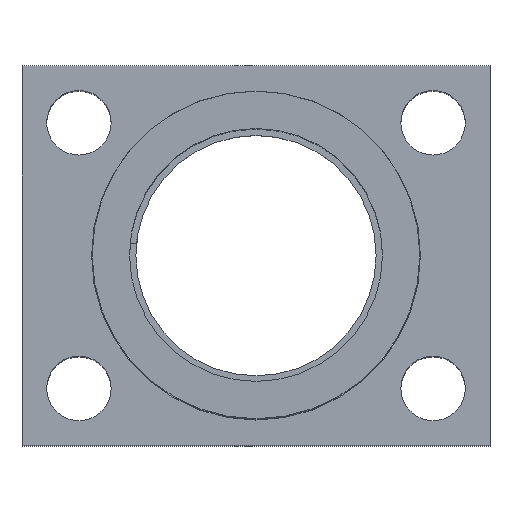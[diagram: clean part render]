
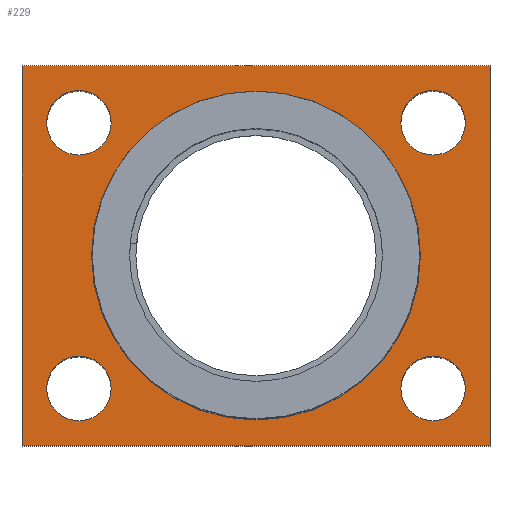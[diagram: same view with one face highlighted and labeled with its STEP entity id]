
A CAD part, top view. The second image highlights one B-rep face of the part: STEP entity #229.
In plain terms, the highlighted planar face has unit normal (0, 0, 1).
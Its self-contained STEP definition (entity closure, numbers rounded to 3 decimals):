
#42 = EDGE_CURVE ( 'NONE', #1217, #649, #1071, .T. ) ;
#44 = VERTEX_POINT ( 'NONE', #673 ) ;
#60 = DIRECTION ( 'NONE',  ( 0., 0., 1. ) ) ;
#74 = CARTESIAN_POINT ( 'NONE',  ( -28., 21., 8. ) ) ;
#83 = VECTOR ( 'NONE', #1203, 1000. ) ;
#113 = CARTESIAN_POINT ( 'NONE',  ( 28., 21., 8. ) ) ;
#117 = DIRECTION ( 'NONE',  ( 0., 1., 0. ) ) ;
#123 = DIRECTION ( 'NONE',  ( 1., 0., 0. ) ) ;
#137 = FACE_BOUND ( 'NONE', #375, .T. ) ;
#142 = CARTESIAN_POINT ( 'NONE',  ( -26., 0., 8. ) ) ;
#156 = CIRCLE ( 'NONE', #1041, 5.1 ) ;
#165 = CARTESIAN_POINT ( 'NONE',  ( -28., -21., 8. ) ) ;
#168 = ORIENTED_EDGE ( 'NONE', *, *, #245, .F. ) ;
#172 = VERTEX_POINT ( 'NONE', #142 ) ;
#177 = CARTESIAN_POINT ( 'NONE',  ( 0., 0., 8. ) ) ;
#181 = AXIS2_PLACEMENT_3D ( 'NONE', #325, #205, #813 ) ;
#198 = DIRECTION ( 'NONE',  ( 0., 0., 1. ) ) ;
#205 = DIRECTION ( 'NONE',  ( 0., 0., 1. ) ) ;
#206 = DIRECTION ( 'NONE',  ( 1., 0., 0. ) ) ;
#228 = DIRECTION ( 'NONE',  ( 0., 0., 1. ) ) ;
#229 = ADVANCED_FACE ( 'NONE', ( #963, #724, #1326, #137, #612, #460 ), #344, .T. ) ;
#241 = ORIENTED_EDGE ( 'NONE', *, *, #416, .F. ) ;
#245 = EDGE_CURVE ( 'NONE', #1156, #617, #1115, .T. ) ;
#293 = ORIENTED_EDGE ( 'NONE', *, *, #588, .F. ) ;
#307 = LINE ( 'NONE', #505, #835 ) ;
#323 = CARTESIAN_POINT ( 'NONE',  ( -33.1, -21., 8. ) ) ;
#325 = CARTESIAN_POINT ( 'NONE',  ( 28., 21., 8. ) ) ;
#344 = PLANE ( 'NONE',  #1040 ) ;
#371 = ORIENTED_EDGE ( 'NONE', *, *, #467, .T. ) ;
#375 = EDGE_LOOP ( 'NONE', ( #1395, #1535 ) ) ;
#407 = DIRECTION ( 'NONE',  ( 1., 0., 0. ) ) ;
#416 = EDGE_CURVE ( 'NONE', #855, #172, #1492, .T. ) ;
#426 = AXIS2_PLACEMENT_3D ( 'NONE', #177, #60, #1512 ) ;
#443 = DIRECTION ( 'NONE',  ( 1., 0., 0. ) ) ;
#460 = FACE_OUTER_BOUND ( 'NONE', #563, .T. ) ;
#463 = DIRECTION ( 'NONE',  ( 1., 0., 0. ) ) ;
#467 = EDGE_CURVE ( 'NONE', #1173, #1246, #307, .T. ) ;
#471 = CARTESIAN_POINT ( 'NONE',  ( 0., 0., 8. ) ) ;
#505 = CARTESIAN_POINT ( 'NONE',  ( 37., 30., 8. ) ) ;
#541 = EDGE_CURVE ( 'NONE', #44, #1080, #1259, .T. ) ;
#550 = CARTESIAN_POINT ( 'NONE',  ( 28., -21., 8. ) ) ;
#551 = CIRCLE ( 'NONE', #1167, 5.1 ) ;
#563 = EDGE_LOOP ( 'NONE', ( #371, #581, #1138, #738 ) ) ;
#567 = AXIS2_PLACEMENT_3D ( 'NONE', #74, #1404, #407 ) ;
#581 = ORIENTED_EDGE ( 'NONE', *, *, #915, .T. ) ;
#588 = EDGE_CURVE ( 'NONE', #1331, #929, #1268, .T. ) ;
#594 = DIRECTION ( 'NONE',  ( 0., 0., 1. ) ) ;
#612 = FACE_BOUND ( 'NONE', #1097, .T. ) ;
#617 = VERTEX_POINT ( 'NONE', #323 ) ;
#627 = AXIS2_PLACEMENT_3D ( 'NONE', #471, #1191, #123 ) ;
#649 = VERTEX_POINT ( 'NONE', #1174 ) ;
#654 = CARTESIAN_POINT ( 'NONE',  ( -37., 30., 8. ) ) ;
#668 = CARTESIAN_POINT ( 'NONE',  ( 37., 30., 8. ) ) ;
#673 = CARTESIAN_POINT ( 'NONE',  ( -37., -30., 8. ) ) ;
#683 = LINE ( 'NONE', #1175, #781 ) ;
#685 = EDGE_CURVE ( 'NONE', #812, #1462, #1447, .T. ) ;
#704 = DIRECTION ( 'NONE',  ( 1., 0., 0. ) ) ;
#708 = DIRECTION ( 'NONE',  ( 1., 0., 0. ) ) ;
#724 = FACE_BOUND ( 'NONE', #1431, .T. ) ;
#738 = ORIENTED_EDGE ( 'NONE', *, *, #1366, .T. ) ;
#752 = ORIENTED_EDGE ( 'NONE', *, *, #42, .F. ) ;
#763 = EDGE_LOOP ( 'NONE', ( #1473, #752 ) ) ;
#781 = VECTOR ( 'NONE', #117, 1000. ) ;
#808 = DIRECTION ( 'NONE',  ( 1., 0., 0. ) ) ;
#809 = EDGE_CURVE ( 'NONE', #617, #1156, #1193, .T. ) ;
#812 = VERTEX_POINT ( 'NONE', #1304 ) ;
#813 = DIRECTION ( 'NONE',  ( 1., 0., 0. ) ) ;
#828 = CARTESIAN_POINT ( 'NONE',  ( 0., 0., 8. ) ) ;
#835 = VECTOR ( 'NONE', #994, 1000. ) ;
#847 = EDGE_CURVE ( 'NONE', #172, #855, #1496, .T. ) ;
#855 = VERTEX_POINT ( 'NONE', #952 ) ;
#858 = VECTOR ( 'NONE', #808, 1000. ) ;
#865 = ORIENTED_EDGE ( 'NONE', *, *, #847, .F. ) ;
#867 = EDGE_CURVE ( 'NONE', #1462, #812, #156, .T. ) ;
#888 = EDGE_CURVE ( 'NONE', #929, #1331, #551, .T. ) ;
#897 = CARTESIAN_POINT ( 'NONE',  ( -22.9, 21., 8. ) ) ;
#906 = CIRCLE ( 'NONE', #567, 5.1 ) ;
#915 = EDGE_CURVE ( 'NONE', #1246, #44, #1066, .T. ) ;
#929 = VERTEX_POINT ( 'NONE', #1531 ) ;
#935 = DIRECTION ( 'NONE',  ( 0., 0., 1. ) ) ;
#942 = AXIS2_PLACEMENT_3D ( 'NONE', #1288, #198, #206 ) ;
#952 = CARTESIAN_POINT ( 'NONE',  ( 26., 0., 8. ) ) ;
#963 = FACE_BOUND ( 'NONE', #1131, .T. ) ;
#990 = CARTESIAN_POINT ( 'NONE',  ( -28., -21., 8. ) ) ;
#994 = DIRECTION ( 'NONE',  ( -1., 0., 0. ) ) ;
#1001 = CARTESIAN_POINT ( 'NONE',  ( 37., -30., 8. ) ) ;
#1013 = AXIS2_PLACEMENT_3D ( 'NONE', #550, #1272, #1036 ) ;
#1036 = DIRECTION ( 'NONE',  ( 1., 0., 0. ) ) ;
#1040 = AXIS2_PLACEMENT_3D ( 'NONE', #828, #228, #704 ) ;
#1041 = AXIS2_PLACEMENT_3D ( 'NONE', #113, #935, #708 ) ;
#1050 = ORIENTED_EDGE ( 'NONE', *, *, #888, .F. ) ;
#1066 = LINE ( 'NONE', #1445, #83 ) ;
#1071 = CIRCLE ( 'NONE', #942, 5.1 ) ;
#1080 = VERTEX_POINT ( 'NONE', #1001 ) ;
#1097 = EDGE_LOOP ( 'NONE', ( #241, #865 ) ) ;
#1115 = CIRCLE ( 'NONE', #1238, 5.1 ) ;
#1131 = EDGE_LOOP ( 'NONE', ( #293, #1050 ) ) ;
#1138 = ORIENTED_EDGE ( 'NONE', *, *, #541, .T. ) ;
#1144 = CARTESIAN_POINT ( 'NONE',  ( -37., -30., 8. ) ) ;
#1156 = VERTEX_POINT ( 'NONE', #1275 ) ;
#1167 = AXIS2_PLACEMENT_3D ( 'NONE', #1198, #594, #463 ) ;
#1173 = VERTEX_POINT ( 'NONE', #668 ) ;
#1174 = CARTESIAN_POINT ( 'NONE',  ( -33.1, 21., 8. ) ) ;
#1175 = CARTESIAN_POINT ( 'NONE',  ( 37., -30., 8. ) ) ;
#1191 = DIRECTION ( 'NONE',  ( 0., 0., 1. ) ) ;
#1193 = CIRCLE ( 'NONE', #1420, 5.1 ) ;
#1198 = CARTESIAN_POINT ( 'NONE',  ( 28., -21., 8. ) ) ;
#1203 = DIRECTION ( 'NONE',  ( 0., -1., 0. ) ) ;
#1211 = EDGE_CURVE ( 'NONE', #649, #1217, #906, .T. ) ;
#1217 = VERTEX_POINT ( 'NONE', #897 ) ;
#1221 = CARTESIAN_POINT ( 'NONE',  ( 22.9, -21., 8. ) ) ;
#1238 = AXIS2_PLACEMENT_3D ( 'NONE', #990, #1247, #1384 ) ;
#1246 = VERTEX_POINT ( 'NONE', #654 ) ;
#1247 = DIRECTION ( 'NONE',  ( 0., 0., 1. ) ) ;
#1259 = LINE ( 'NONE', #1144, #858 ) ;
#1268 = CIRCLE ( 'NONE', #1013, 5.1 ) ;
#1272 = DIRECTION ( 'NONE',  ( 0., 0., 1. ) ) ;
#1275 = CARTESIAN_POINT ( 'NONE',  ( -22.9, -21., 8. ) ) ;
#1288 = CARTESIAN_POINT ( 'NONE',  ( -28., 21., 8. ) ) ;
#1304 = CARTESIAN_POINT ( 'NONE',  ( 33.1, 21., 8. ) ) ;
#1326 = FACE_BOUND ( 'NONE', #763, .T. ) ;
#1331 = VERTEX_POINT ( 'NONE', #1221 ) ;
#1366 = EDGE_CURVE ( 'NONE', #1080, #1173, #683, .T. ) ;
#1384 = DIRECTION ( 'NONE',  ( 1., 0., 0. ) ) ;
#1395 = ORIENTED_EDGE ( 'NONE', *, *, #867, .F. ) ;
#1400 = ORIENTED_EDGE ( 'NONE', *, *, #809, .F. ) ;
#1404 = DIRECTION ( 'NONE',  ( 0., 0., 1. ) ) ;
#1420 = AXIS2_PLACEMENT_3D ( 'NONE', #165, #1452, #443 ) ;
#1431 = EDGE_LOOP ( 'NONE', ( #1400, #168 ) ) ;
#1445 = CARTESIAN_POINT ( 'NONE',  ( -37., 30., 8. ) ) ;
#1447 = CIRCLE ( 'NONE', #181, 5.1 ) ;
#1452 = DIRECTION ( 'NONE',  ( 0., 0., 1. ) ) ;
#1462 = VERTEX_POINT ( 'NONE', #1549 ) ;
#1473 = ORIENTED_EDGE ( 'NONE', *, *, #1211, .F. ) ;
#1492 = CIRCLE ( 'NONE', #426, 26. ) ;
#1496 = CIRCLE ( 'NONE', #627, 26. ) ;
#1512 = DIRECTION ( 'NONE',  ( 1., 0., 0. ) ) ;
#1531 = CARTESIAN_POINT ( 'NONE',  ( 33.1, -21., 8. ) ) ;
#1535 = ORIENTED_EDGE ( 'NONE', *, *, #685, .F. ) ;
#1549 = CARTESIAN_POINT ( 'NONE',  ( 22.9, 21., 8. ) ) ;
